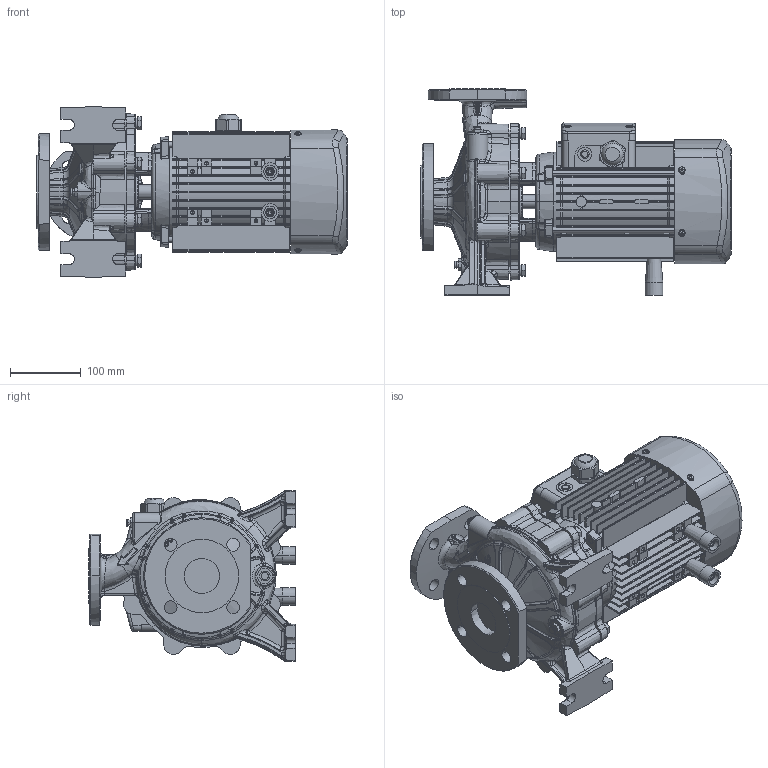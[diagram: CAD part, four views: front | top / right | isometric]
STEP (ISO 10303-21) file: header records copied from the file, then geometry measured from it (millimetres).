
FILE_DESCRIPTION (( 'STEP AP203' ), '1' );
FILE_NAME ('TST32-160-1.5 2.2 安装尺寸图.STEP', '2026-04-27T08:47:18', ( '微软用户' ), ( '微软中国' ), 'SwSTEP 2.0', 'SolidWorks 2020', '' );
FILE_SCHEMA (( 'CONFIG_CONTROL_DESIGN' ));
Products named in the file (1): TST32-160-1.5 2.2 假蚾喜渡芞
Bounding box: 439 x 292 x 241.47 mm (x, y, z)
Volume: 9647555 mm3; surface area: 787870.2 mm2
Topology: 1 solids, 13 shells, 4039 faces, 10071 edges, 6261 vertices
Faces by surface type: cylinder 1160, plane 1121, bspline 1099, cone 353, torus 214, sphere 92
Entity records: 159318 total; most frequent: CARTESIAN_POINT 71255, ORIENTED_EDGE 20050, DIRECTION 16324, EDGE_CURVE 10025, AXIS2_PLACEMENT_3D 6640, VERTEX_POINT 6260, EDGE_LOOP 4371, FACE_OUTER_BOUND 4039
